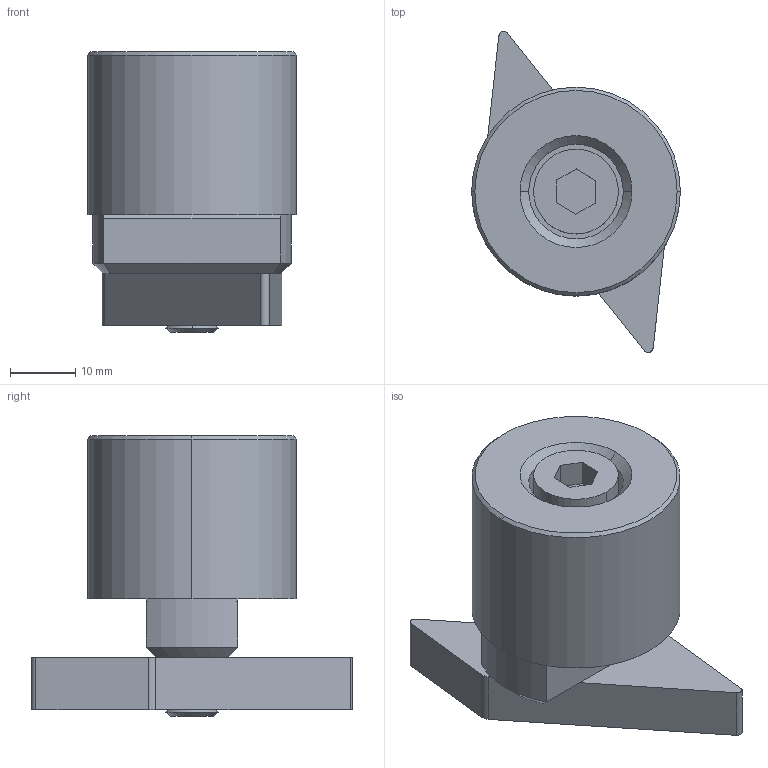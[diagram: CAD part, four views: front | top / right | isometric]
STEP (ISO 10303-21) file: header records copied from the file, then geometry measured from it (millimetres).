
FILE_DESCRIPTION (( 'STEP AP203' ), '1' );
FILE_NAME ('30200.W0114.step', '2017-06-30T11:02:45', ( 'User' ), ( '' ), 'SwSTEP 2.0', 'SolidWorks 2009', '' );
FILE_SCHEMA (( 'CONFIG_CONTROL_DESIGN' ));
Length unit declared in the file: millimetre
Products named in the file (4): Part1_30200.W0114; screw_M8x35; Wedge_30200.W0114; 30200.W0114
Assembly tree (3 placements, depth 2):
  30200.W0114
    Part1_30200.W0114
    Wedge_30200.W0114
    screw_M8x35
Bounding box: 32 x 49.2 x 43 mm (x, y, z)
Volume: 27414.5 mm3; surface area: 9634.1 mm2
Topology: 3 solids, 3 shells, 96 faces, 209 edges, 123 vertices
Faces by surface type: cone 43, plane 34, cylinder 19
Entity records: 3008 total; most frequent: DIRECTION 490, CARTESIAN_POINT 446, ORIENTED_EDGE 418, EDGE_CURVE 209, AXIS2_PLACEMENT_3D 183, VECTOR 124, LINE 124, VERTEX_POINT 123
